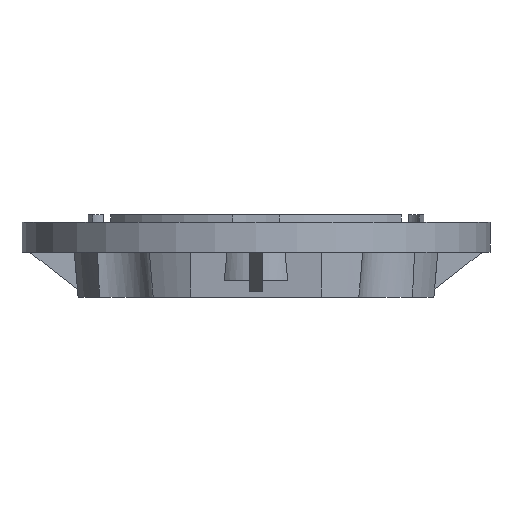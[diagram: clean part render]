
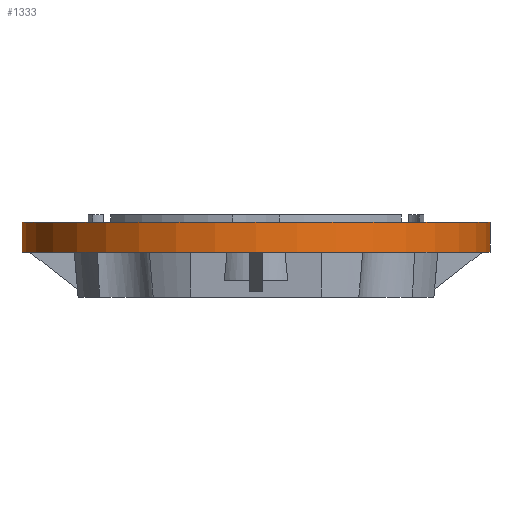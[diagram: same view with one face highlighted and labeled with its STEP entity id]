
A CAD part, front view. The second image highlights one B-rep face of the part: STEP entity #1333.
In plain terms, the highlighted cylindrical face has radius 125 mm (diameter 250 mm), a partial arc.
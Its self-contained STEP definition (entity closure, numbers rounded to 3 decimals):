
#1333=ADVANCED_FACE('',(#1499),#3790,.T.);
#1499=FACE_OUTER_BOUND('',#1665,.T.);
#1665=EDGE_LOOP('',(#2454,#2455,#2456,#2457));
#2454=ORIENTED_EDGE('',*,*,#2873,.T.);
#2455=ORIENTED_EDGE('',*,*,#2701,.T.);
#2456=ORIENTED_EDGE('',*,*,#2699,.T.);
#2457=ORIENTED_EDGE('',*,*,#2871,.F.);
#2699=EDGE_CURVE('',#3688,#3719,#2989,.T.);
#2701=EDGE_CURVE('',#3498,#3688,#3344,.T.);
#2871=EDGE_CURVE('',#3718,#3719,#3455,.T.);
#2873=EDGE_CURVE('',#3718,#3498,#3047,.T.);
#2989=TRIMMED_CURVE($,#3147,(#5969),(#5970),.T.,.CARTESIAN.);
#3047=TRIMMED_CURVE($,#3205,(#6395),(#6396),.T.,.CARTESIAN.);
#3147=CIRCLE('',#4278,125.);
#3205=CIRCLE('',#4336,125.);
#3344=B_SPLINE_CURVE_WITH_KNOTS('',1,(#5974,#5975),.UNSPECIFIED.,.F.,.F.,
(2,2),(1.66,17.66),.UNSPECIFIED.);
#3455=B_SPLINE_CURVE_WITH_KNOTS('',1,(#6389,#6390),.UNSPECIFIED.,.F.,.F.,
(2,2),(1.66,17.66),.UNSPECIFIED.);
#3498=VERTEX_POINT('',#5201);
#3688=VERTEX_POINT('',#5391);
#3718=VERTEX_POINT('',#5421);
#3719=VERTEX_POINT('',#5422);
#3790=CYLINDRICAL_SURFACE('',#4186,125.);
#4186=AXIS2_PLACEMENT_3D('',#5158,#4485,$);
#4278=AXIS2_PLACEMENT_3D($,#5968,#4660,#4661);
#4336=AXIS2_PLACEMENT_3D($,#6394,#4776,#4777);
#4485=DIRECTION('',(1.,0.,0.));
#4660=DIRECTION('',(-1.,0.,0.));
#4661=DIRECTION('',(0.,0.,-1.));
#4776=DIRECTION('',(1.,0.,0.));
#4777=DIRECTION('',(0.,0.,1.));
#5158=CARTESIAN_POINT('',(32.,0.,0.));
#5201=CARTESIAN_POINT('',(24.,0.,-125.));
#5391=CARTESIAN_POINT('',(40.,0.,-125.));
#5421=CARTESIAN_POINT('',(24.,0.,125.));
#5422=CARTESIAN_POINT('',(40.,0.,125.));
#5968=CARTESIAN_POINT('',(40.,0.,0.));
#5969=CARTESIAN_POINT('',(40.,0.,-125.));
#5970=CARTESIAN_POINT('',(40.,0.,125.));
#5974=CARTESIAN_POINT('',(24.,0.,-125.));
#5975=CARTESIAN_POINT('',(40.,0.,-125.));
#6389=CARTESIAN_POINT('',(24.,0.,125.));
#6390=CARTESIAN_POINT('',(40.,0.,125.));
#6394=CARTESIAN_POINT('',(24.,0.,0.));
#6395=CARTESIAN_POINT('',(24.,0.,125.));
#6396=CARTESIAN_POINT('',(24.,0.,-125.));
